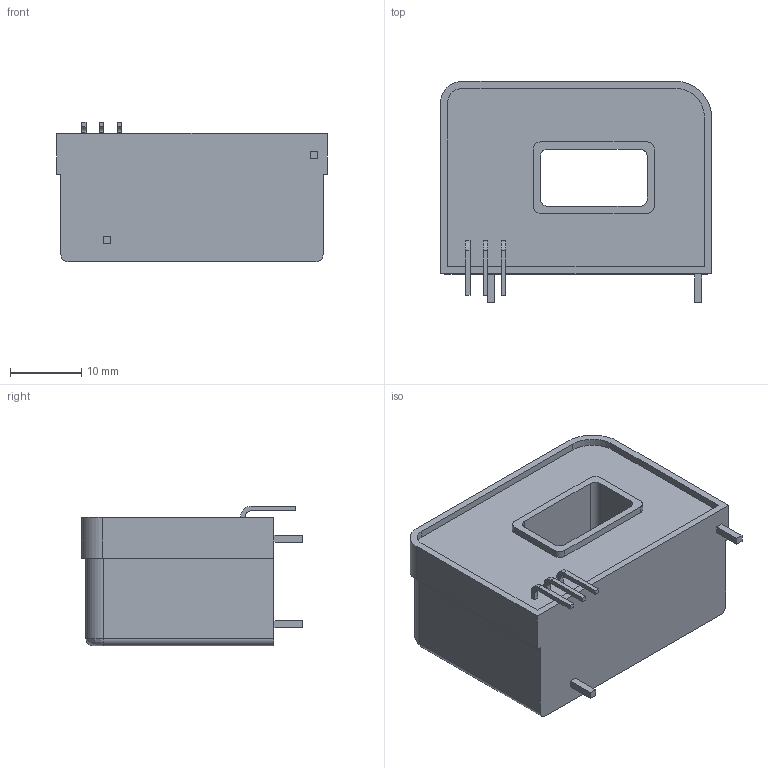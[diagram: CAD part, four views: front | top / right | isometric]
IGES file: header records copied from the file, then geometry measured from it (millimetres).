
Global section: file name: No Iges File Name specified; native system: AutoDesk Inventor R6.0; preprocessor: AutoDesk Inventor Iges Exporter R6.0; author: No Author specified; organization: No Organization specified; date: 20051229.143755; units: millimetre
Bounding box: 38 x 31 x 19.57 mm (x, y, z)
Surface area: 5052.3 mm2 (no closed solid volume)
Topology: 0 solids, 0 shells, 88 faces, 450 edges, 450 vertices
Faces by surface type: plane 55, revolution 33
